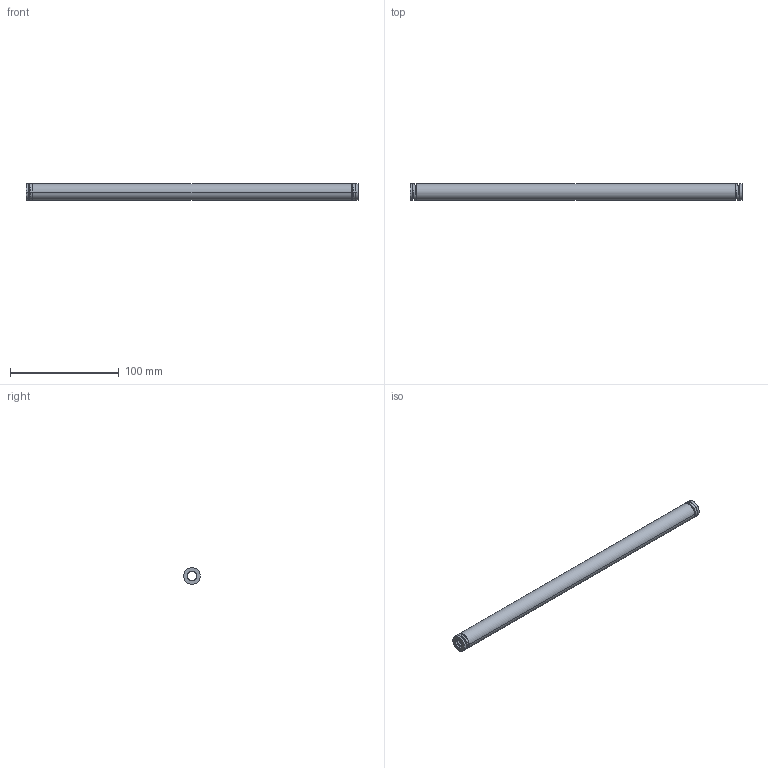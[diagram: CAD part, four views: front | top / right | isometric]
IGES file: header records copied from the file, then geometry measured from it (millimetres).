
Start section: START RECORD GO HERE.
Global section: file name: 392-B16-305.igs; native system: DASSAULT SYSTEMES CATIA V5 R20 - www.3ds.com; preprocessor: CATIA Version 5 Release 20 ; author: Utente; organization: NB04-ASUS; date: 20210812.160213; units: millimetre
Bounding box: 305 x 15.35 x 15.2 mm (x, y, z)
Surface area: 23947.1 mm2 (no closed solid volume)
Topology: 0 solids, 0 shells, 38 faces, 184 edges, 184 vertices
Faces by surface type: revolution 28, plane 10
